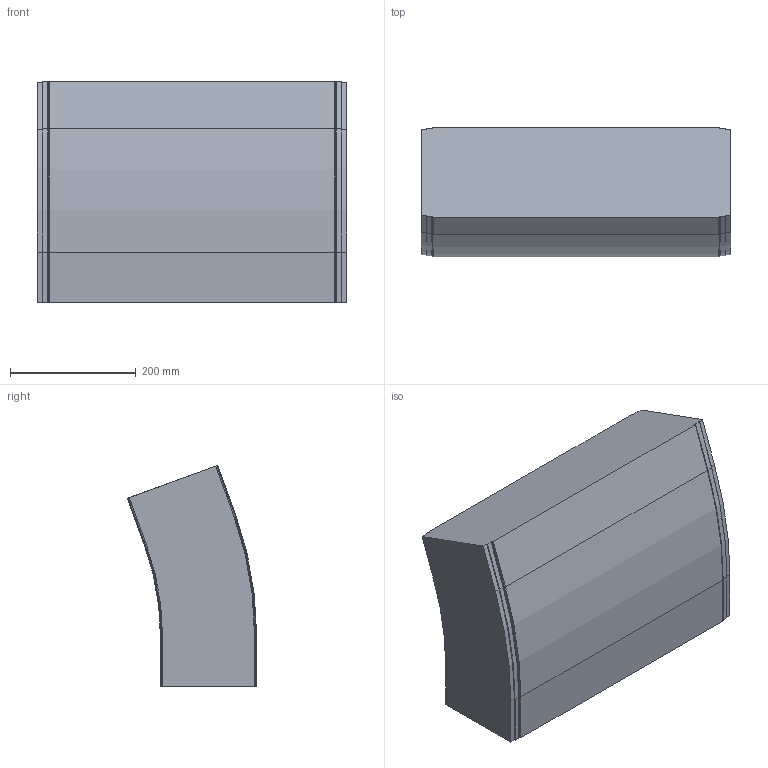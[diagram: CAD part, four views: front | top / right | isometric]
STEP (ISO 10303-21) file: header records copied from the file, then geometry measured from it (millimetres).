
FILE_DESCRIPTION (( 'STEP AP214' ), '1' );
FILE_NAME ('F2 1800 CV500 x.step', '2017-04-05T06:48:33', ( '' ), ( '' ), 'SwSTEP 2.0', 'SolidWorks 2015', '' );
FILE_SCHEMA (( 'AUTOMOTIVE_DESIGN' ));
Length unit declared in the file: millimetre
Products named in the file (1): F2 1800 CV500 x
Bounding box: 494 x 206.29 x 352.42 mm (x, y, z)
Volume: 25288150.6 mm3; surface area: 585770.9 mm2
Topology: 1 solids, 1 shells, 70 faces, 196 edges, 128 vertices
Faces by surface type: plane 44, cylinder 22, torus 4
Entity records: 3048 total; most frequent: CARTESIAN_POINT 395, ORIENTED_EDGE 392, DIRECTION 386, EDGE_CURVE 196, VECTOR 148, LINE 148, VERTEX_POINT 128, AXIS2_PLACEMENT_3D 119
